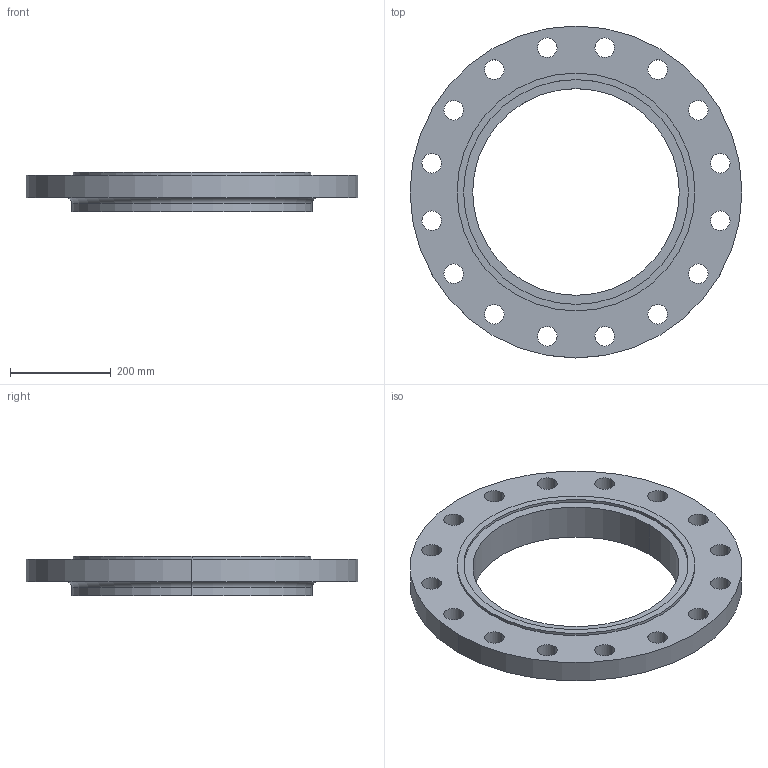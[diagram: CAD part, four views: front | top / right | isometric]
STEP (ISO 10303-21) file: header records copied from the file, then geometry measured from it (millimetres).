
FILE_DESCRIPTION (( 'STEP AP214' ), '1' );
FILE_NAME ('PN40 DN400 Type 12 - Type C Face.STEP', '2019-01-05T23:17:50', ( '' ), ( '' ), 'SwSTEP 2.0', 'SolidWorks 2019', '' );
FILE_SCHEMA (( 'AUTOMOTIVE_DESIGN' ));
Length unit declared in the file: millimetre
Products named in the file (1): PN40 DN400 Type 12 - Type C Face
Bounding box: 660 x 660 x 78 mm (x, y, z)
Volume: 9930052.9 mm3; surface area: 704060.7 mm2
Topology: 1 solids, 1 shells, 49 faces, 130 edges, 86 vertices
Faces by surface type: cylinder 42, plane 5, torus 2
Entity records: 1678 total; most frequent: DIRECTION 318, CARTESIAN_POINT 266, ORIENTED_EDGE 260, AXIS2_PLACEMENT_3D 138, EDGE_CURVE 130, CIRCLE 88, EDGE_LOOP 86, VERTEX_POINT 86
